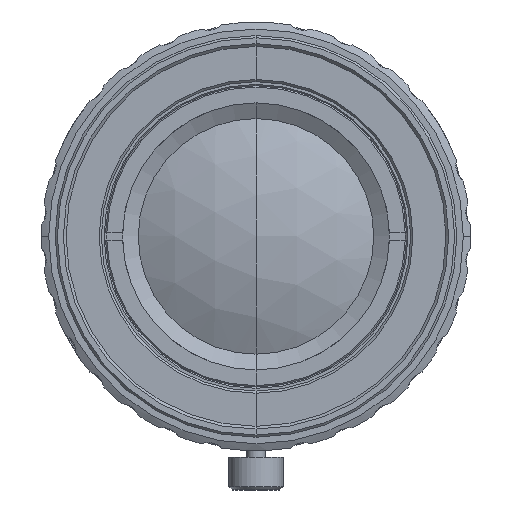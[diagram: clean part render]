
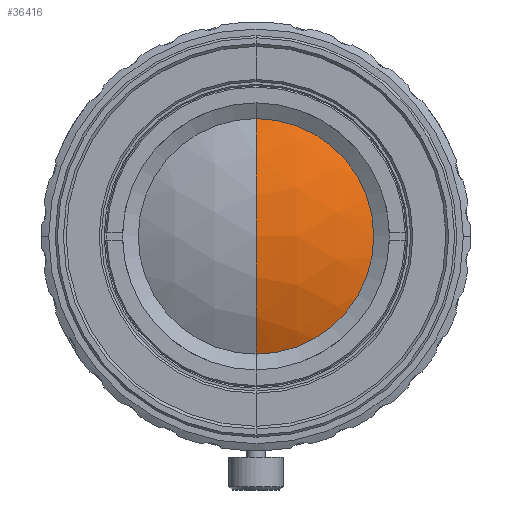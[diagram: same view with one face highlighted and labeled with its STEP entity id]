
A CAD part, front view. The second image highlights one B-rep face of the part: STEP entity #36416.
In plain terms, the highlighted spherical face has radius 24.187 mm.
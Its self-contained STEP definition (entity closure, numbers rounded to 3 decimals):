
#1411 = CARTESIAN_POINT ( 'NONE',  ( 0., -37.622, 0.002 ) ) ;
#2127 = CARTESIAN_POINT ( 'NONE',  ( 6.679, -59.191, -8.699 ) ) ;
#2249 = CARTESIAN_POINT ( 'NONE',  ( 10.944, -59.191, -0.723 ) ) ;
#2370 = CARTESIAN_POINT ( 'NONE',  ( 5.782, -59.192, 9.298 ) ) ;
#2576 = B_SPLINE_CURVE_WITH_KNOTS ( 'NONE', 3,
 ( #16311, #27721, #27842, #10618, #30746, #13498, #33615, #16433, #36450, #19313, #2127, #22187, #5002, #25083, #7876, #27960, #10731, #30867, #13631, #33733, #16558, #36579, #19427, #2249, #22309, #5135, #25196, #7997, #28088, #10850, #30994, #13748, #33850, #16689, #36694, #19550, #2370, #22437, #5248, #25327, #8121, #28218, #10980, #31116, #13872, #33973 ),
 .UNSPECIFIED., .F., .F.,
 ( 4, 2, 2, 1, 2, 2, 2, 2, 2, 2, 2, 2, 2, 2, 2, 2, 2, 2, 2, 2, 1, 2, 2, 4 ),
 ( 0.009, 0.011, 0.012, 0.013, 0.014, 0.015, 0.017, 0.018, 0.019, 0.021, 0.022, 0.024, 0.026, 0.028, 0.029, 0.03, 0.032, 0.034, 0.036, 0.037, 0.038, 0.04, 0.041, 0.043 ),
 .UNSPECIFIED. ) ;
#3754 = CIRCLE ( 'NONE', #22979, 24.187 ) ;
#4195 = CIRCLE ( 'NONE', #4890, 24.187 ) ;
#4290 = DIRECTION ( 'NONE',  ( 0., -1., 0. ) ) ;
#4890 = AXIS2_PLACEMENT_3D ( 'NONE', #29537, #12292, #32421 ) ;
#5002 = CARTESIAN_POINT ( 'NONE',  ( 7.988, -59.191, -7.489 ) ) ;
#5135 = CARTESIAN_POINT ( 'NONE',  ( 10.873, -59.191, 1.435 ) ) ;
#5248 = CARTESIAN_POINT ( 'NONE',  ( 4.838, -59.192, 9.823 ) ) ;
#5347 = VERTEX_POINT ( 'NONE', #25820 ) ;
#5581 = EDGE_LOOP ( 'NONE', ( #10870, #22579, #11963 ) ) ;
#7876 = CARTESIAN_POINT ( 'NONE',  ( 8.687, -59.191, -6.666 ) ) ;
#7997 = CARTESIAN_POINT ( 'NONE',  ( 10.577, -59.192, 2.83 ) ) ;
#8121 = CARTESIAN_POINT ( 'NONE',  ( 3.521, -59.192, 10.368 ) ) ;
#9309 = VERTEX_POINT ( 'NONE', #10351 ) ;
#10147 = DIRECTION ( 'NONE',  ( 0., 0., -1. ) ) ;
#10210 = CARTESIAN_POINT ( 'NONE',  ( 0., -59.192, 10.944 ) ) ;
#10351 = CARTESIAN_POINT ( 'NONE',  ( 0., -61.809, 0.002 ) ) ;
#10618 = CARTESIAN_POINT ( 'NONE',  ( 2.483, -59.19, -10.664 ) ) ;
#10731 = CARTESIAN_POINT ( 'NONE',  ( 9.498, -59.191, -5.483 ) ) ;
#10850 = CARTESIAN_POINT ( 'NONE',  ( 10.247, -59.192, 3.86 ) ) ;
#10870 = ORIENTED_EDGE ( 'NONE', *, *, #20955, .T. ) ;
#10980 = CARTESIAN_POINT ( 'NONE',  ( 2.485, -59.192, 10.664 ) ) ;
#11963 = ORIENTED_EDGE ( 'NONE', *, *, #25966, .F. ) ;
#12292 = DIRECTION ( 'NONE',  ( 1., 0., 0. ) ) ;
#13498 = CARTESIAN_POINT ( 'NONE',  ( 3.521, -59.191, -10.368 ) ) ;
#13631 = CARTESIAN_POINT ( 'NONE',  ( 10.246, -59.191, -3.861 ) ) ;
#13748 = CARTESIAN_POINT ( 'NONE',  ( 9.498, -59.192, 5.483 ) ) ;
#13872 = CARTESIAN_POINT ( 'NONE',  ( 0.714, -59.192, 10.944 ) ) ;
#15824 = CARTESIAN_POINT ( 'NONE',  ( 0., -37.622, 0.002 ) ) ;
#16311 = CARTESIAN_POINT ( 'NONE',  ( 0., -59.19, -10.944 ) ) ;
#16433 = CARTESIAN_POINT ( 'NONE',  ( 4.838, -59.191, -9.823 ) ) ;
#16558 = CARTESIAN_POINT ( 'NONE',  ( 10.577, -59.191, -2.831 ) ) ;
#16689 = CARTESIAN_POINT ( 'NONE',  ( 8.241, -59.192, 7.236 ) ) ;
#19313 = CARTESIAN_POINT ( 'NONE',  ( 5.781, -59.191, -9.299 ) ) ;
#19427 = CARTESIAN_POINT ( 'NONE',  ( 10.873, -59.191, -1.434 ) ) ;
#19550 = CARTESIAN_POINT ( 'NONE',  ( 6.679, -59.192, 8.699 ) ) ;
#20955 = EDGE_CURVE ( 'NONE', #5347, #25376, #2576, .T. ) ;
#21451 = DIRECTION ( 'NONE',  ( -1., 0., 0. ) ) ;
#22187 = CARTESIAN_POINT ( 'NONE',  ( 7.231, -59.191, -8.246 ) ) ;
#22309 = CARTESIAN_POINT ( 'NONE',  ( 10.944, -59.191, 0.722 ) ) ;
#22437 = CARTESIAN_POINT ( 'NONE',  ( 5.471, -59.192, 9.485 ) ) ;
#22579 = ORIENTED_EDGE ( 'NONE', *, *, #34221, .T. ) ;
#22979 = AXIS2_PLACEMENT_3D ( 'NONE', #1411, #21451, #4290 ) ;
#25083 = CARTESIAN_POINT ( 'NONE',  ( 8.229, -59.191, -7.223 ) ) ;
#25196 = CARTESIAN_POINT ( 'NONE',  ( 10.664, -59.192, 2.484 ) ) ;
#25327 = CARTESIAN_POINT ( 'NONE',  ( 4.193, -59.192, 10.127 ) ) ;
#25376 = VERTEX_POINT ( 'NONE', #10210 ) ;
#25820 = CARTESIAN_POINT ( 'NONE',  ( 0., -59.19, -10.944 ) ) ;
#25966 = EDGE_CURVE ( 'NONE', #5347, #9309, #3754, .T. ) ;
#27365 = DIRECTION ( 'NONE',  ( 1., 0., 0. ) ) ;
#27721 = CARTESIAN_POINT ( 'NONE',  ( 0.714, -59.19, -10.944 ) ) ;
#27842 = CARTESIAN_POINT ( 'NONE',  ( 1.424, -59.19, -10.874 ) ) ;
#27960 = CARTESIAN_POINT ( 'NONE',  ( 8.902, -59.191, -6.376 ) ) ;
#28088 = CARTESIAN_POINT ( 'NONE',  ( 10.369, -59.192, 3.518 ) ) ;
#28218 = CARTESIAN_POINT ( 'NONE',  ( 2.836, -59.192, 10.576 ) ) ;
#29537 = CARTESIAN_POINT ( 'NONE',  ( 0., -37.622, 0.002 ) ) ;
#30746 = CARTESIAN_POINT ( 'NONE',  ( 2.835, -59.19, -10.576 ) ) ;
#30867 = CARTESIAN_POINT ( 'NONE',  ( 9.834, -59.191, -4.854 ) ) ;
#30994 = CARTESIAN_POINT ( 'NONE',  ( 9.834, -59.192, 4.854 ) ) ;
#31116 = CARTESIAN_POINT ( 'NONE',  ( 1.424, -59.192, 10.874 ) ) ;
#32421 = DIRECTION ( 'NONE',  ( 0., 0., -1. ) ) ;
#32708 = SPHERICAL_SURFACE ( 'NONE', #34292, 24.187 ) ;
#33615 = CARTESIAN_POINT ( 'NONE',  ( 4.193, -59.191, -10.127 ) ) ;
#33733 = CARTESIAN_POINT ( 'NONE',  ( 10.369, -59.191, -3.519 ) ) ;
#33850 = CARTESIAN_POINT ( 'NONE',  ( 8.703, -59.192, 6.673 ) ) ;
#33973 = CARTESIAN_POINT ( 'NONE',  ( 0., -59.192, 10.944 ) ) ;
#34221 = EDGE_CURVE ( 'NONE', #25376, #9309, #4195, .T. ) ;
#34292 = AXIS2_PLACEMENT_3D ( 'NONE', #15824, #27365, #10147 ) ;
#35354 = FACE_OUTER_BOUND ( 'NONE', #5581, .T. ) ;
#36416 = ADVANCED_FACE ( 'NONE', ( #35354 ), #32708, .T. ) ;
#36450 = CARTESIAN_POINT ( 'NONE',  ( 5.47, -59.191, -9.485 ) ) ;
#36579 = CARTESIAN_POINT ( 'NONE',  ( 10.664, -59.191, -2.484 ) ) ;
#36694 = CARTESIAN_POINT ( 'NONE',  ( 7.23, -59.192, 8.246 ) ) ;
